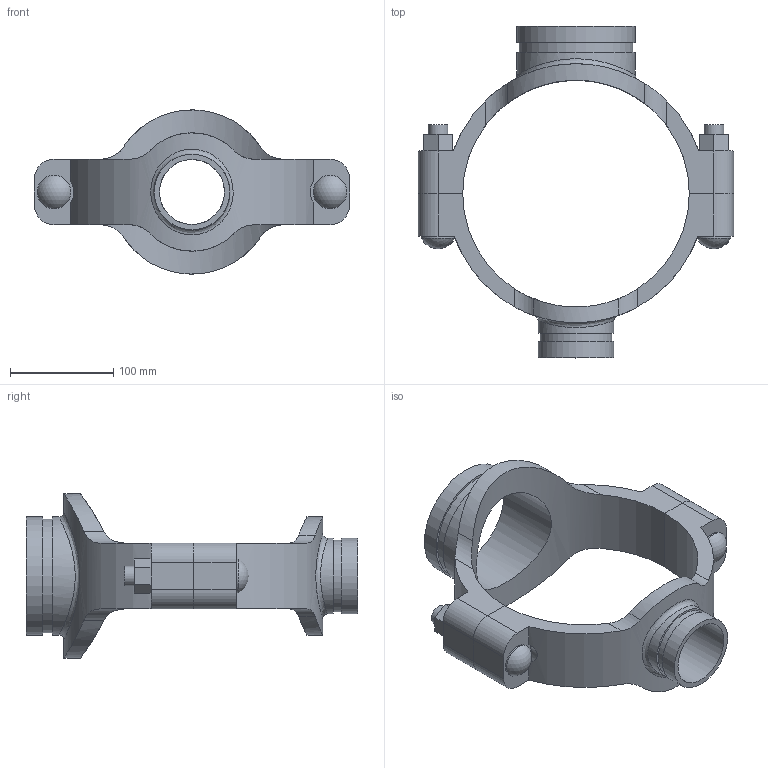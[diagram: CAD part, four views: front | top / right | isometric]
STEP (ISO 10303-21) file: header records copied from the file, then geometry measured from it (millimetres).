
FILE_DESCRIPTION(/* description */ ('VIC MECH-T BRANCH OUTLET CROSS STYLE 920N (GRVD)','CAx-IF Rec.Pracs.---Representation and Presentation of Product Manufacturing Information (PMI)---4.0---2014-10-13'),/* implementation_level */ '2;1');
FILE_NAME(/* name */ 'C:\Users\Vjadhav\AppData\Roaming\Autodesk\ApplicationPlugins\Back Up\Victaulic_IPS_Mechanical-Cross Outlet_Style 920N (OGS)\Victaulic_IPS_Mechanical-Cross Outlet_08.0x04.0x02.5 (200x100x65).stp',/* time_stamp */ '2020-08-06T19:46:01+05:00',/* author */ ('Vjadhav'),/* organization */ ('Victaulic'),/* preprocessor_version */ 'ST-DEVELOPER v17.2',/* originating_system */ 'Autodesk Inventor 2019',/* authorisation */ '');
FILE_SCHEMA (('AP242_MANAGED_MODEL_BASED_3D_ENGINEERING_MIM_LF { 1 0 10303 442 1 1 4 }'));
Length unit declared in the file: inch
Products named in the file (3): 920NG-08.0x04.0x02.5; 920G-08.0x04.0; 920G-08.0x02.5
Assembly tree (2 placements, depth 2):
  920NG-08.0x04.0x02.5
    920G-08.0x04.0
    920G-08.0x02.5
Bounding box: 304.8 x 320.8 x 158.75 mm (x, y, z)
Volume: 1169511.8 mm3; surface area: 232192.8 mm2
Topology: 2 solids, 2 shells, 108 faces, 274 edges, 186 vertices
Faces by surface type: plane 54, cylinder 50, sphere 2, bspline 2
Full cylindrical faces by diameter (mm): 19.05 x4, 32.537 x2, 62.738 x1, 69.088 x1, 73.025 x2, 102.394 x1, 110.084 x1, 114.3 x2
Entity records: 4366 total; most frequent: CARTESIAN_POINT 1485, DIRECTION 552, ORIENTED_EDGE 548, EDGE_CURVE 274, AXIS2_PLACEMENT_3D 201, VERTEX_POINT 186, LINE 150, VECTOR 150
